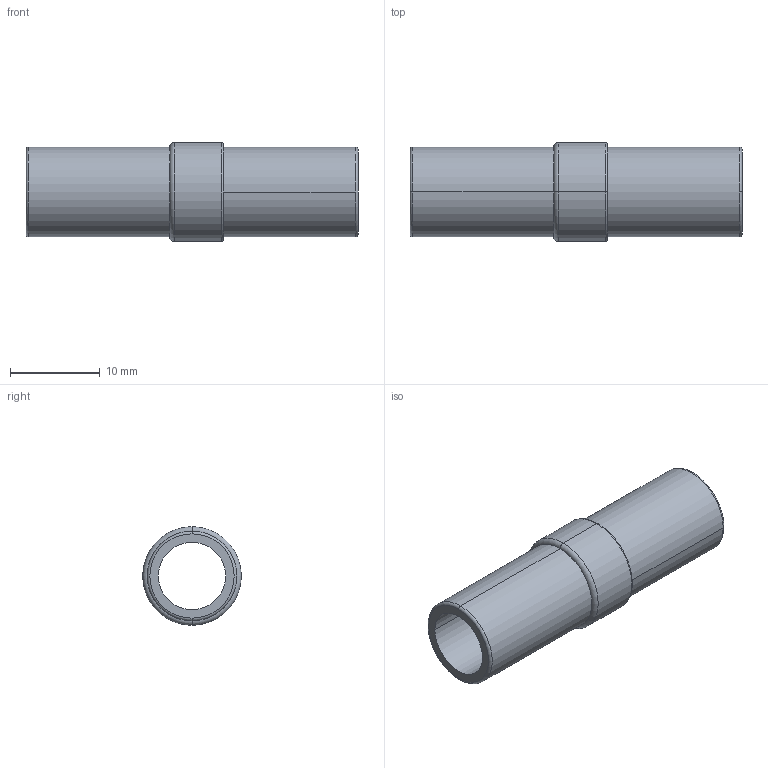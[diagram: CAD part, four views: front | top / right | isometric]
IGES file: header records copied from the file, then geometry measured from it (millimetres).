
Global section: file name: No Iges File Name specified; native system: AutoDesk Inventor R11.0; preprocessor: AutoDesk Inventor Iges Exporter R11.0; author: No Author specified; organization: No Organization specified; date: 20120321.163622; units: millimetre
Bounding box: 37 x 11 x 11 mm (x, y, z)
Volume: 1367 mm3; surface area: 2136.1 mm2
Topology: 1 solids, 1 shells, 19 faces, 42 edges, 26 vertices
Faces by surface type: torus 8, cylinder 6, plane 3, revolution 2
